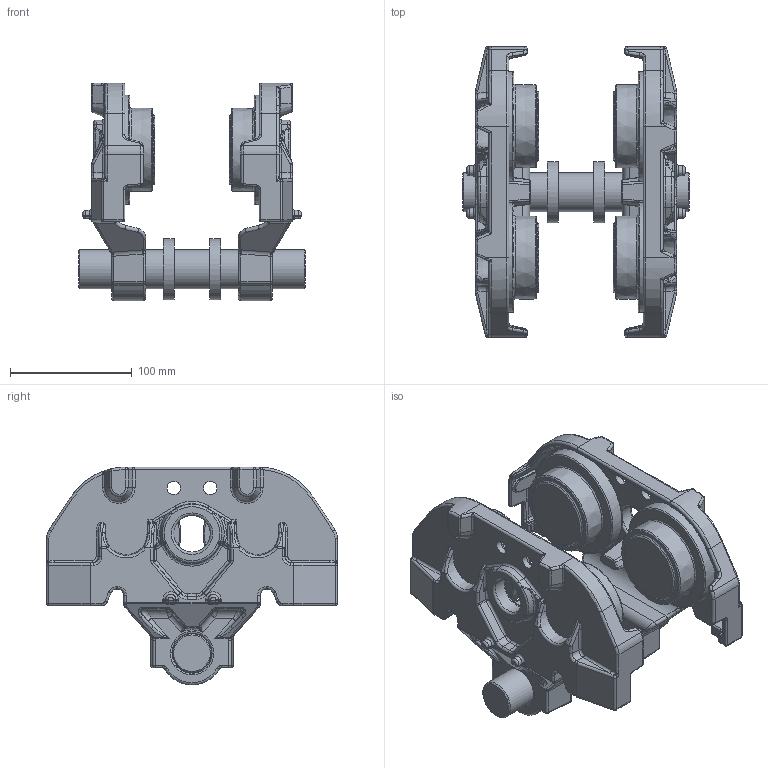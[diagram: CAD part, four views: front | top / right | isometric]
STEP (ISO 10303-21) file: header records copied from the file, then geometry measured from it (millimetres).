
FILE_DESCRIPTION(/* description */ (''),/* implementation_level */ '2;1');
FILE_NAME(/* name */ 'G:\Technik\3D-Dateien light_2015_10_02\Hebezeuge\Fahrwerke\GHF, GMF\9249.9200.L GHF,GHFR1250.stp',/* time_stamp */ '2020-12-11T15:18:23+01:00',/* author */ ('gispen'),/* organization */ (''),/* preprocessor_version */ 'ST-DEVELOPER v17.2',/* originating_system */ 'Autodesk Inventor 2019',/* authorisation */ '');
FILE_SCHEMA (('CONFIG_CONTROL_DESIGN'));
Length unit declared in the file: millimetre
Products named in the file (3): 9249.9200.L; 9249.9299.L; 9249.9312.L
Assembly tree (3 placements, depth 2):
  9249.9200.L
    9249.9299.L
    9249.9312.L  x2
Bounding box: 186 x 238.6 x 178.65 mm (x, y, z)
Volume: 1532259.8 mm3; surface area: 271604.5 mm2
Topology: 3 solids, 3 shells, 1673 faces, 3945 edges, 2234 vertices
Faces by surface type: bspline 580, cylinder 539, plane 250, torus 172, sphere 96, cone 36
Full cylindrical faces by diameter (mm): 11 x4, 30 x2, 32 x5, 45 x4, 50 x2, 89.4 x4
Entity records: 33878 total; most frequent: CARTESIAN_POINT 14651, ORIENTED_EDGE 3902, DIRECTION 3767, EDGE_CURVE 1951, AXIS2_PLACEMENT_3D 1594, VERTEX_POINT 1127, EDGE_LOOP 864, FACE_OUTER_BOUND 842
